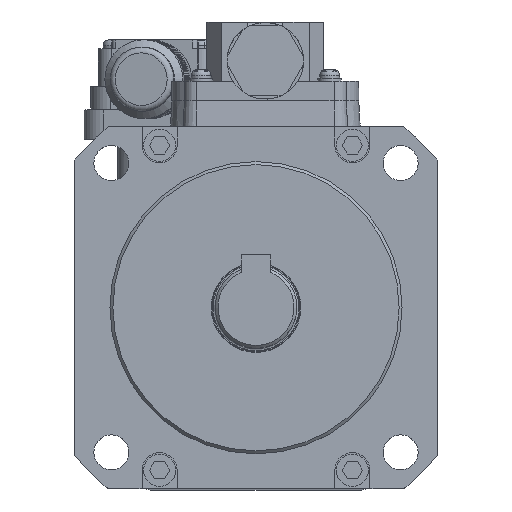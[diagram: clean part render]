
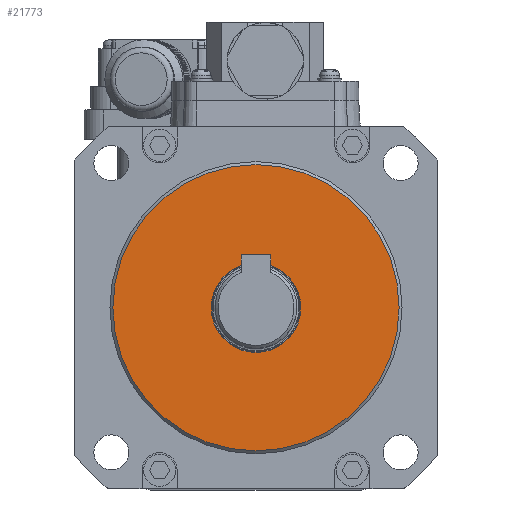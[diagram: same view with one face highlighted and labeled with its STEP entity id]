
A CAD part, top view. The second image highlights one B-rep face of the part: STEP entity #21773.
In plain terms, the highlighted planar face has unit normal (0, 0, 1).
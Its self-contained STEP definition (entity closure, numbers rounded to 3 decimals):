
#6467=ORIENTED_EDGE('',*,*,#12823,.F.);
#6468=ORIENTED_EDGE('',*,*,#12824,.T.);
#12823=EDGE_CURVE('',#15999,#15999,#17412,.T.);
#12824=EDGE_CURVE('',#16000,#16000,#17413,.T.);
#15999=VERTEX_POINT('',#33126);
#16000=VERTEX_POINT('',#33128);
#17412=CIRCLE('',#23179,24.5);
#17413=CIRCLE('',#23180,7.65);
#18048=EDGE_LOOP('',(#6467));
#18049=EDGE_LOOP('',(#6468));
#19412=FACE_BOUND('',#18048,.T.);
#19413=FACE_BOUND('',#18049,.T.);
#20715=PLANE('',#23178);
#21773=ADVANCED_FACE('',(#19412,#19413),#20715,.F.);
#23178=AXIS2_PLACEMENT_3D('',#33124,#26036,#26037);
#23179=AXIS2_PLACEMENT_3D('',#33125,#26038,#26039);
#23180=AXIS2_PLACEMENT_3D('',#33127,#26040,#26041);
#26036=DIRECTION('',(0.,0.,-1.));
#26037=DIRECTION('',(-1.,0.,0.));
#26038=DIRECTION('',(0.,0.,-1.));
#26039=DIRECTION('',(-1.,0.,0.));
#26040=DIRECTION('',(0.,0.,-1.));
#26041=DIRECTION('',(-1.,0.,0.));
#33124=CARTESIAN_POINT('',(0.,0.,3.));
#33125=CARTESIAN_POINT('',(0.,0.,3.));
#33126=CARTESIAN_POINT('',(-24.5,0.,3.));
#33127=CARTESIAN_POINT('',(0.,0.,3.));
#33128=CARTESIAN_POINT('',(-7.65,0.,3.));
